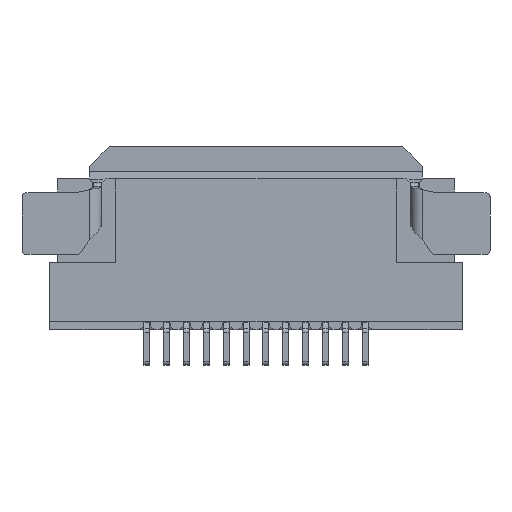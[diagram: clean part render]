
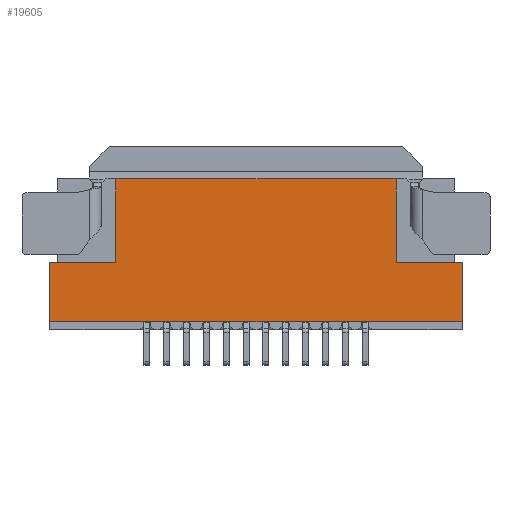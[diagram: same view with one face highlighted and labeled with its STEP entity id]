
A CAD part, front view. The second image highlights one B-rep face of the part: STEP entity #19605.
In plain terms, the highlighted planar face has unit normal (0, -1, 0).
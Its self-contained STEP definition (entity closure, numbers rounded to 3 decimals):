
#1142=DIRECTION('',(-1.,0.,0.));
#1143=VECTOR('',#1142,7.07);
#1144=CARTESIAN_POINT('',(-6.715,-0.875,1.95));
#1145=LINE('',#1144,#1143);
#1174=DIRECTION('',(1.,0.,0.));
#1175=VECTOR('',#1174,10.4);
#1176=CARTESIAN_POINT('',(-15.45,-0.875,-1.65));
#1177=LINE('',#1176,#1175);
#6230=DIRECTION('',(0.,0.,1.));
#6231=VECTOR('',#6230,1.5);
#6232=CARTESIAN_POINT('',(-15.45,-0.875,-1.65));
#6233=LINE('',#6232,#6231);
#6258=DIRECTION('',(1.,0.,0.));
#6259=VECTOR('',#6258,1.665);
#6260=CARTESIAN_POINT('',(-15.45,-0.875,-0.15));
#6261=LINE('',#6260,#6259);
#6282=DIRECTION('',(0.,0.,1.));
#6283=VECTOR('',#6282,2.1);
#6284=CARTESIAN_POINT('',(-13.785,-0.875,-0.15));
#6285=LINE('',#6284,#6283);
#10534=DIRECTION('',(0.,0.,1.));
#10535=VECTOR('',#10534,1.5);
#10536=CARTESIAN_POINT('',(-5.05,-0.875,-1.65));
#10537=LINE('',#10536,#10535);
#10558=DIRECTION('',(-1.,0.,0.));
#10559=VECTOR('',#10558,1.665);
#10560=CARTESIAN_POINT('',(-5.05,-0.875,-0.15));
#10561=LINE('',#10560,#10559);
#10578=DIRECTION('',(0.,0.,1.));
#10579=VECTOR('',#10578,2.1);
#10580=CARTESIAN_POINT('',(-6.715,-0.875,-0.15));
#10581=LINE('',#10580,#10579);
#14037=CARTESIAN_POINT('',(-5.05,-0.875,-0.15));
#14038=VERTEX_POINT('',#14037);
#14039=CARTESIAN_POINT('',(-6.715,-0.875,-0.15));
#14040=VERTEX_POINT('',#14039);
#14041=CARTESIAN_POINT('',(-5.05,-0.875,-1.65));
#14042=VERTEX_POINT('',#14041);
#14045=CARTESIAN_POINT('',(-6.715,-0.875,1.95));
#14046=VERTEX_POINT('',#14045);
#16175=CARTESIAN_POINT('',(-15.45,-0.875,-0.15));
#16176=VERTEX_POINT('',#16175);
#16177=CARTESIAN_POINT('',(-13.785,-0.875,-0.15));
#16178=VERTEX_POINT('',#16177);
#16179=CARTESIAN_POINT('',(-15.45,-0.875,-1.65));
#16180=VERTEX_POINT('',#16179);
#16183=CARTESIAN_POINT('',(-13.785,-0.875,1.95));
#16184=VERTEX_POINT('',#16183);
#19583=CARTESIAN_POINT('',(0.,-0.875,0.15));
#19584=DIRECTION('',(0.,1.,0.));
#19585=DIRECTION('',(0.,0.,-1.));
#19586=AXIS2_PLACEMENT_3D('',#19583,#19584,#19585);
#19587=PLANE('',#19586);
#19589=ORIENTED_EDGE('',*,*,#19588,.F.);
#19591=ORIENTED_EDGE('',*,*,#19590,.T.);
#19593=ORIENTED_EDGE('',*,*,#19592,.T.);
#19595=ORIENTED_EDGE('',*,*,#19594,.T.);
#19596=ORIENTED_EDGE('',*,*,#19463,.F.);
#19598=ORIENTED_EDGE('',*,*,#19597,.F.);
#19600=ORIENTED_EDGE('',*,*,#19599,.F.);
#19602=ORIENTED_EDGE('',*,*,#19601,.F.);
#19603=EDGE_LOOP('',(#19589,#19591,#19593,#19595,#19596,#19598,#19600,#19602));
#19604=FACE_OUTER_BOUND('',#19603,.F.);
#19463=EDGE_CURVE('',#14046,#16184,#1145,.T.);
#19588=EDGE_CURVE('',#16180,#14042,#1177,.T.);
#19590=EDGE_CURVE('',#16180,#16176,#6233,.T.);
#19592=EDGE_CURVE('',#16176,#16178,#6261,.T.);
#19594=EDGE_CURVE('',#16178,#16184,#6285,.T.);
#19597=EDGE_CURVE('',#14040,#14046,#10581,.T.);
#19599=EDGE_CURVE('',#14038,#14040,#10561,.T.);
#19601=EDGE_CURVE('',#14042,#14038,#10537,.T.);
#19605=ADVANCED_FACE('',(#19604),#19587,.F.);
